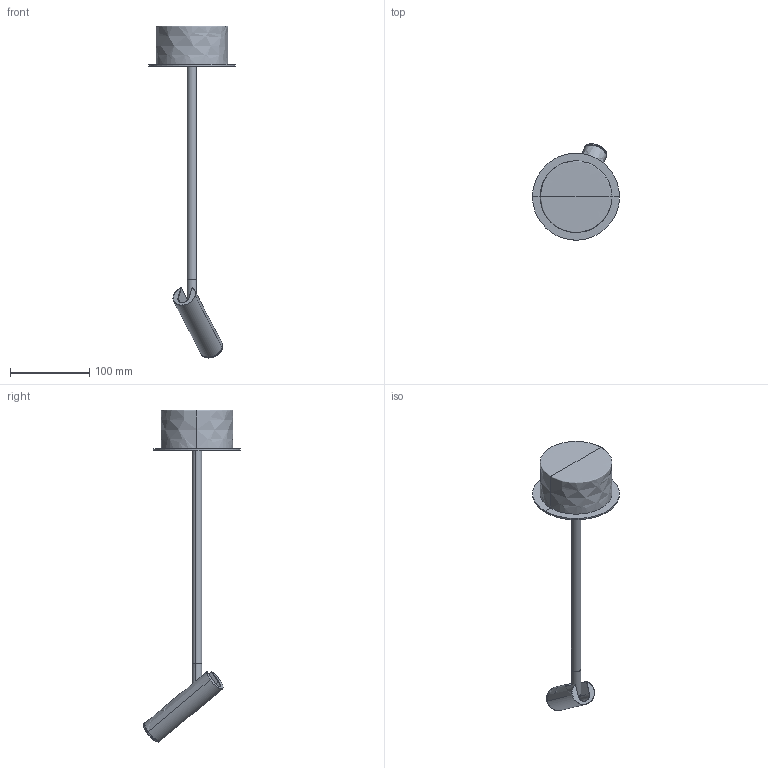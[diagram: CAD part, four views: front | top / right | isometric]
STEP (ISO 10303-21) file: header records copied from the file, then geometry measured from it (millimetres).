
FILE_DESCRIPTION(/* description */ (''),/* implementation_level */ '2;1');
FILE_NAME(/* name */ '4039A',/* time_stamp */ '2023-11-02T11:59:47+01:00',/* author */ (''),/* organization */ (''),/* preprocessor_version */ 'ST-DEVELOPER v16.5',/* originating_system */ '',/* authorisation */ '');
FILE_SCHEMA (('AUTOMOTIVE_DESIGN'));
Length unit declared in the file: millimetre
Products named in the file (1): Document
Bounding box: 110 x 122.46 x 419.91 mm (x, y, z)
Volume: 201876.8 mm3; surface area: 76510.9 mm2
Topology: 7 solids, 7 shells, 71 faces, 141 edges, 81 vertices
Faces by surface type: bspline 71
Entity records: 3972 total; most frequent: CARTESIAN_POINT 2284, ORIENTED_EDGE 270, PCURVE 270, DEFINITIONAL_REPRESENTATION 270, B_SPLINE_CURVE_WITH_KNOTS 244, SURFACE_CURVE 135, EDGE_CURVE 135, VERTEX_POINT 79
